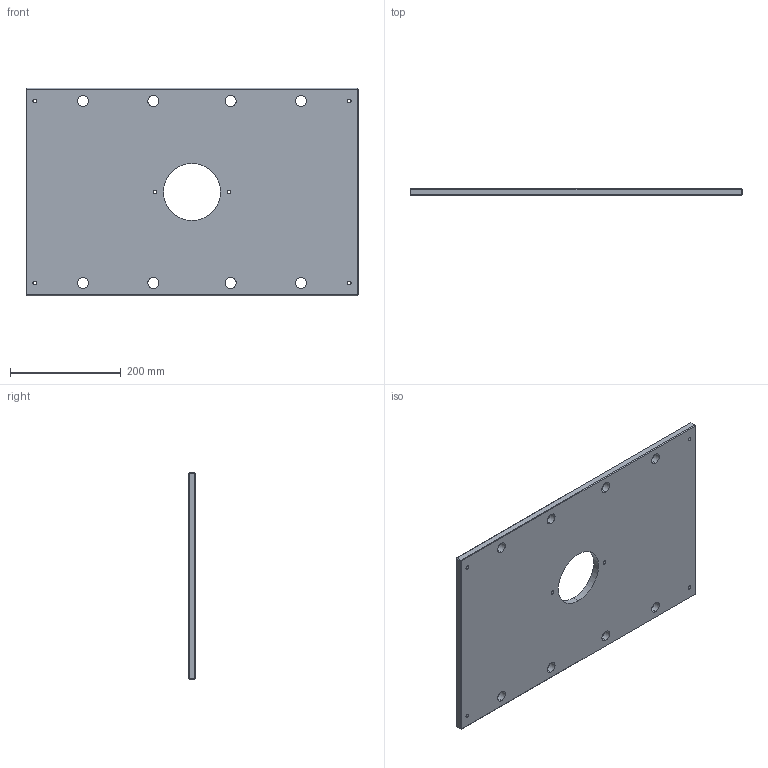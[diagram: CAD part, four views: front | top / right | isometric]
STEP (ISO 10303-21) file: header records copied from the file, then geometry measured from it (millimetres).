
FILE_DESCRIPTION (( 'STEP AP214' ), '1' );
FILE_NAME ('ME-0619-CH-1524.STEP', '2020-02-12T14:32:51', ( '' ), ( '' ), 'SwSTEP 2.0', 'SolidWorks 2018', '' );
FILE_SCHEMA (( 'AUTOMOTIVE_DESIGN' ));
Length unit declared in the file: inch
Products named in the file (1): ME-0619-CH-1524
Bounding box: 600.08 x 12.7 x 374.65 mm (x, y, z)
Volume: 2710367.6 mm3; surface area: 461273.3 mm2
Topology: 1 solids, 1 shells, 68 faces, 162 edges, 96 vertices
Faces by surface type: cylinder 30, plane 26, cone 12
Entity records: 2050 total; most frequent: DIRECTION 372, CARTESIAN_POINT 327, ORIENTED_EDGE 324, EDGE_CURVE 162, AXIS2_PLACEMENT_3D 141, EDGE_LOOP 98, VERTEX_POINT 96, VECTOR 90
